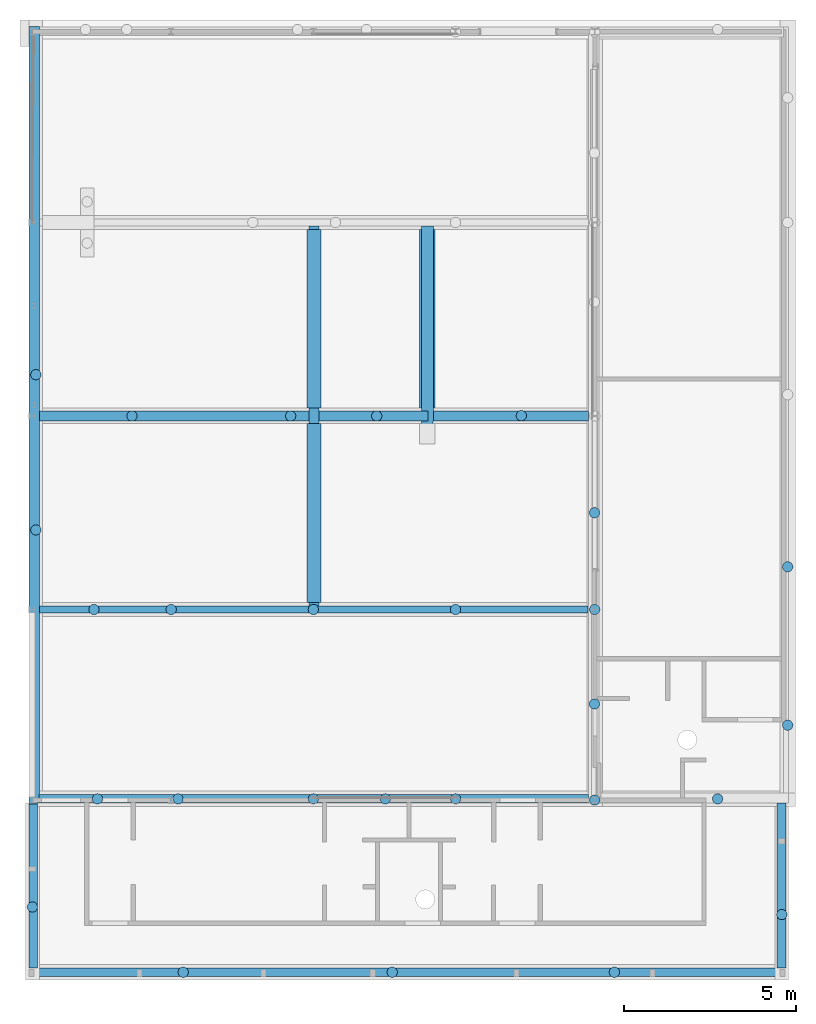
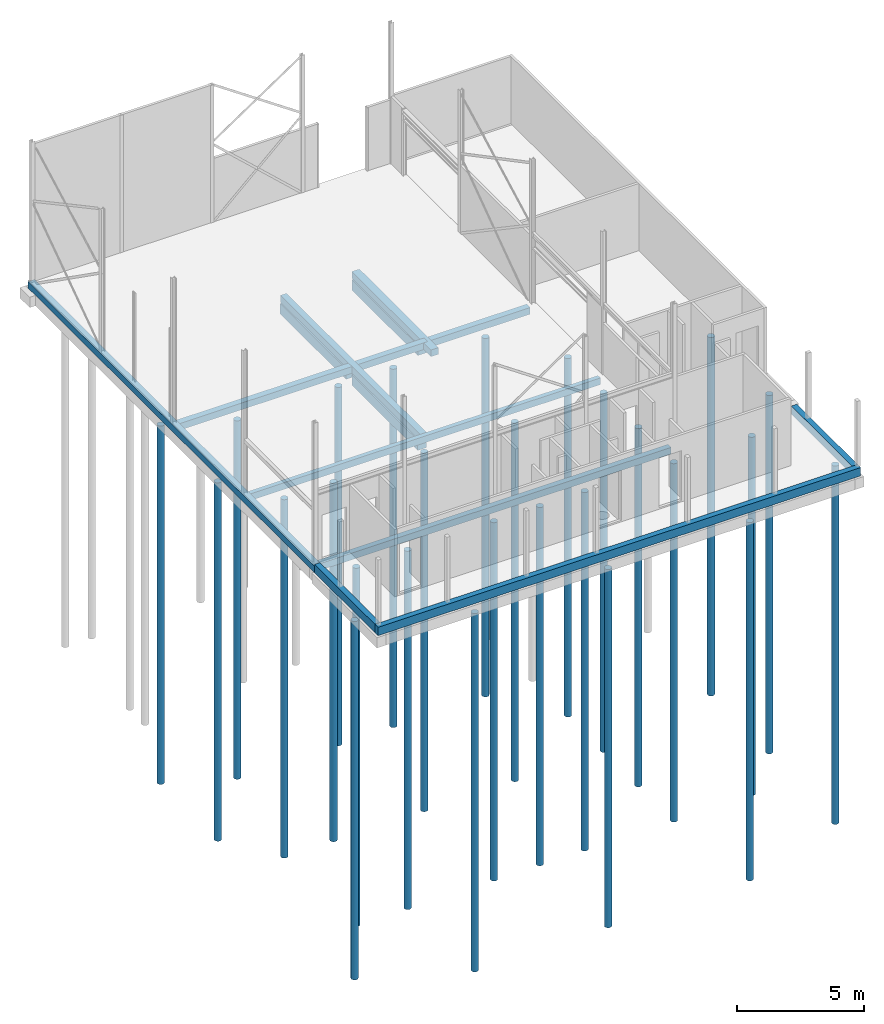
# One storey, part 1 of 17: 27 piles, 14 footings.
"""IFC2X3 building model written with IfcOpenShell, lengths in millimetres."""

import ifcopenshell
import ifcopenshell.guid

model = None  # the IFC model being written
_history = None  # IfcOwnerHistory: only IFC2X3 demands one
_inside = {}  # id of a spatial element -> (the spatial element, [elements in it])
_under = {}  # id of a project, library or spatial element -> (it, [spatial elements below it])
_declared = {}  # id of a project -> (the project, [libraries it declares])
_typed = {}  # id of a type object -> (the type object, [elements of that type])
_made_of = {}  # id of a material, layer set ... -> (it, [elements and type objects made of it])


def new_model(schema):
    """Start an empty IFC model of exactly this schema.

    Asked for "IFC4X3", IfcOpenShell would pick the latest addendum, in which some entities
    have other attributes; the version numbers below select the first issue.
    IFC2X3 requires an IfcOwnerHistory on every rooted entity: one is made here for all.
    """
    global model, _history
    if schema == "IFC4X3":
        model = ifcopenshell.file(schema_version=(4, 3, 0, 0))
    else:
        model = ifcopenshell.file(schema=schema)
    _inside.clear()
    _under.clear()
    _declared.clear()
    _typed.clear()
    _made_of.clear()
    _history = None
    if model.schema == "IFC2X3":
        org = make("IfcOrganization", Name="unknown")
        user = make(
            "IfcPersonAndOrganization",
            ThePerson=make("IfcPerson", FamilyName="unknown"),
            TheOrganization=org,
        )
        app = make(
            "IfcApplication",
            ApplicationDeveloper=org,
            Version="unknown",
            ApplicationFullName="unknown",
            ApplicationIdentifier="unknown",
        )
        _history = make(
            "IfcOwnerHistory",
            OwningUser=user,
            OwningApplication=app,
            ChangeAction="ADDED",
            CreationDate=0,
        )
    return model


def make(cls, **values):
    """One entity of the class cls with the attributes given. An attribute that is None is left unset."""
    return model.create_entity(
        cls, **{name: value for name, value in values.items() if value is not None}
    )


def entity(cls, *values):
    """Any entity or typed value of the class cls, its attributes in the order of the schema. None: left unset."""
    e = model.create_entity(cls)
    for i, value in enumerate(values):
        if value is not None:
            e[i] = value
    return e


def rooted(cls, **values):
    """An entity with a GlobalId (a new one), such as an element, a storey or a relation."""
    return make(cls, GlobalId=ifcopenshell.guid.new(), OwnerHistory=_history, **values)


def si_unit(unit_type, name, prefix=None):
    """IfcSIUnit, for example si_unit("LENGTHUNIT", "METRE", prefix="MILLI")."""
    return make("IfcSIUnit", UnitType=unit_type, Prefix=prefix, Name=name)


def converted_unit(unit_type, name, factor, base, dimensions=None, offset=None):
    """IfcConversionBasedUnit, such as the inch: factor (a typed value) times the base unit."""
    return make(
        "IfcConversionBasedUnit"
        if offset is None
        else "IfcConversionBasedUnitWithOffset",
        ConversionOffset=offset,
        Dimensions=None
        if dimensions is None
        else entity("IfcDimensionalExponents", *dimensions),
        UnitType=unit_type,
        Name=name,
        ConversionFactor=make(
            "IfcMeasureWithUnit", ValueComponent=factor, UnitComponent=base
        ),
    )


def derived_unit(unit_type, elements):
    """IfcDerivedUnit: a product of units, each with its exponent."""
    return make(
        "IfcDerivedUnit",
        Elements=[
            make("IfcDerivedUnitElement", Unit=unit, Exponent=power)
            for unit, power in elements
        ],
        UnitType=unit_type,
    )


def assignment(units):
    """IfcUnitAssignment: the units of a project."""
    return None if units is None else make("IfcUnitAssignment", Units=units)


def point(xyz):
    """IfcCartesianPoint."""
    return None if xyz is None else make("IfcCartesianPoint", Coordinates=xyz)


def direction(xyz):
    """IfcDirection."""
    return None if xyz is None else make("IfcDirection", DirectionRatios=xyz)


def frame(location, z_axis=None, x_axis=None):
    """IfcAxis2Placement3D, a coordinate frame: its origin and axes. An axis left out is left unset."""
    return make(
        "IfcAxis2Placement3D",
        Location=point(location),
        Axis=direction(z_axis),
        RefDirection=direction(x_axis),
    )


def frame_2d(location, x_axis=None):
    """IfcAxis2Placement2D, a coordinate frame in the plane: its origin and x axis."""
    return make(
        "IfcAxis2Placement2D", Location=point(location), RefDirection=direction(x_axis)
    )


def origin():
    """The frame at (0, 0, 0) with its axes left unset."""
    return frame((0.0, 0.0, 0.0))


def origin_2d_with_axis():
    """The frame at (0, 0) in the plane with the x axis (1, 0) written out."""
    return frame_2d((0.0, 0.0), x_axis=(1.0, 0.0))


def place(relative_to, where):
    """IfcLocalPlacement: puts the frame where relative to a parent placement (None: the world)."""
    return make(
        "IfcLocalPlacement", PlacementRelTo=relative_to, RelativePlacement=where
    )


def context(
    kind, dimensions, precision=None, world=None, true_north=None, identifier=None
):
    """IfcGeometricRepresentationContext, for example the 3D "Model" context."""
    return make(
        "IfcGeometricRepresentationContext",
        ContextIdentifier=identifier,
        ContextType=kind,
        CoordinateSpaceDimension=dimensions,
        Precision=precision,
        WorldCoordinateSystem=world,
        TrueNorth=true_north,
    )


def subcontext(parent, identifier, kind, view, scale=None):
    """IfcGeometricRepresentationSubContext, for example "Body" below "Model"."""
    return make(
        "IfcGeometricRepresentationSubContext",
        ContextIdentifier=identifier,
        ContextType=kind,
        ParentContext=parent,
        TargetScale=scale,
        TargetView=view,
    )


def project(units=None, contexts=None):
    """IfcProject with its units and contexts."""
    return rooted(
        "IfcProject",
        Name="project",
        RepresentationContexts=contexts,
        UnitsInContext=assignment(units),
    )


def spatial(cls, under=None, at=None, **own):
    """A site, building, storey or space (cls), placed at a placement, below another one or the project."""
    s = rooted(cls, ObjectPlacement=at, **own)
    if under is not None:
        _under.setdefault(under.id(), (under, []))[1].append(s)
    return s


def polyline(points):
    """IfcPolyline through the points."""
    return make("IfcPolyline", Points=[point(p) for p in points])


def profile(cls, at=None, kind="AREA", **sizes):
    """A parametric profile (cls). Its sizes go by their IFC names, for example OverallWidth=200.0."""
    return make(cls, ProfileType=kind, Position=at, **sizes)


def rectangle(**sizes):
    """IfcRectangleProfileDef."""
    return profile("IfcRectangleProfileDef", **sizes)


def circle(**sizes):
    """IfcCircleProfileDef."""
    return profile("IfcCircleProfileDef", **sizes)


def outline(outer, holes=None, kind="AREA"):
    """IfcArbitraryClosedProfileDef: a profile drawn as a closed curve; with holes, ...WithVoids."""
    if holes is None:
        return make("IfcArbitraryClosedProfileDef", ProfileType=kind, OuterCurve=outer)
    return make(
        "IfcArbitraryProfileDefWithVoids",
        ProfileType=kind,
        OuterCurve=outer,
        InnerCurves=holes,
    )


def extrude(swept, where, along, depth):
    """IfcExtrudedAreaSolid: the profile swept, set in the frame where, extruded along a direction by depth."""
    return make(
        "IfcExtrudedAreaSolid",
        SweptArea=swept,
        Position=where,
        ExtrudedDirection=direction(along),
        Depth=depth,
    )


def shape(context_of_items, identifier, shape_type, items):
    """IfcShapeRepresentation: the items that make up one representation, for example the "Body"."""
    return make(
        "IfcShapeRepresentation",
        ContextOfItems=context_of_items,
        RepresentationIdentifier=identifier,
        RepresentationType=shape_type,
        Items=items,
    )


def source(mapping_origin, context_of_items, identifier, shape_type, items):
    """IfcRepresentationMap: a shape defined once, which mapped items show again and again."""
    return make(
        "IfcRepresentationMap",
        MappingOrigin=mapping_origin,
        MappedRepresentation=shape(context_of_items, identifier, shape_type, items),
    )


def transform(
    local_origin,
    x_axis=None,
    y_axis=None,
    z_axis=None,
    scale=None,
    scale2=None,
    scale3=None,
    uniform=True,
):
    """IfcCartesianTransformationOperator3D, or its non-uniform kind. x_axis, y_axis, z_axis: its Axis1, 2, 3."""
    if uniform:
        return make(
            "IfcCartesianTransformationOperator3D",
            Axis1=direction(x_axis),
            Axis2=direction(y_axis),
            LocalOrigin=point(local_origin),
            Scale=scale,
            Axis3=direction(z_axis),
        )
    return make(
        "IfcCartesianTransformationOperator3DnonUniform",
        Axis1=direction(x_axis),
        Axis2=direction(y_axis),
        LocalOrigin=point(local_origin),
        Scale=scale,
        Axis3=direction(z_axis),
        Scale2=scale2,
        Scale3=scale3,
    )


def mapped(mapping_source, mapping_target):
    """IfcMappedItem: shows the shape of a source again, moved by a transform."""
    return make(
        "IfcMappedItem", MappingSource=mapping_source, MappingTarget=mapping_target
    )


def material(Name=None, Category=None):
    """IfcMaterial."""
    return make("IfcMaterial", Name=Name, Category=Category)


def made_of(thing, what):
    """Note that an element or type object is made of a material, layer set ...; save() writes the relation."""
    if what is not None:
        _made_of.setdefault(what.id(), (what, []))[1].append(thing)
    return thing


def type_object(cls, material=None, **own):
    """A type object (cls), such as IfcWallType, which elements share."""
    return made_of(rooted(cls, **own), material)


def type_shapes(of_type, sources):
    """Give a type object the sources (RepresentationMaps) that its elements show as mapped items."""
    of_type.RepresentationMaps = sources


def element(
    cls,
    number,
    at=None,
    inside=None,
    cuts=None,
    type_object=None,
    material=None,
    context=None,
    identifier="Body",
    shape_type=None,
    held_by="IfcProductDefinitionShape",
    body=None,
    shapes=None,
    **own,
):
    """One element of the class cls, such as IfcWall. Its Tag is "e" and its number.

    at: its placement. inside: the storey or other place that contains it. cuts: it is an
    opening in that element (IfcRelVoidsElement). A single representation is given by context,
    identifier, shape_type and body (its items); several are given by shapes. held_by: the class
    of the entity that holds the representations. save() writes the other relations.
    """
    e = rooted(cls, Tag="e%d" % number, ObjectPlacement=at, **own)
    if body is not None:
        shapes = [shape(context, identifier, shape_type, body)]
    if shapes is not None:
        e.Representation = make(held_by, Representations=shapes)
    if inside is not None:
        _inside.setdefault(inside.id(), (inside, []))[1].append(e)
    if cuts is not None:
        rooted(
            "IfcRelVoidsElement", RelatingBuildingElement=cuts, RelatedOpeningElement=e
        )
    if type_object is not None:
        _typed.setdefault(type_object.id(), (type_object, []))[1].append(e)
    return made_of(e, material)


def aggregate(whole, parts):
    """IfcRelAggregates: a whole, such as a stair, and the parts it consists of."""
    return rooted("IfcRelAggregates", RelatingObject=whole, RelatedObjects=parts)


def save(model, path):
    """Write the relations noted so far, then the file.

    IfcRelAggregates (storeys below a building ...), IfcRelContainedInSpatialStructure (elements
    in a storey), IfcRelDefinesByType, IfcRelAssociatesMaterial and IfcRelDeclares: one each for
    every whole, place, type object, material and project.
    """
    for whole, parts in _under.values():
        aggregate(whole, parts)
    for where, things in _inside.values():
        rooted(
            "IfcRelContainedInSpatialStructure",
            RelatedElements=things,
            RelatingStructure=where,
        )
    for kind, things in _typed.values():
        rooted("IfcRelDefinesByType", RelatedObjects=things, RelatingType=kind)
    for what, things in _made_of.values():
        rooted("IfcRelAssociatesMaterial", RelatedObjects=things, RelatingMaterial=what)
    for by, libraries in _declared.values():
        rooted("IfcRelDeclares", RelatingContext=by, RelatedDefinitions=libraries)
    model.write(path)


model = new_model("IFC2X3")

# Units and contexts
model_context = context("Model", 3, precision=0.01, world=origin(), true_north=direction((6.123031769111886e-17, 1.0)))
plan_context = context("Plan", 3, precision=0.01, world=origin(), true_north=direction((6.123031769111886e-17, 1.0)))
body_context = subcontext(model_context, "Body", "Model", "MODEL_VIEW")
ifc_project = project(units=[si_unit("LENGTHUNIT", "METRE", prefix="MILLI"), si_unit("AREAUNIT", "SQUARE_METRE"), si_unit("VOLUMEUNIT", "CUBIC_METRE"), converted_unit("PLANEANGLEUNIT", "DEGREE", entity("IfcPlaneAngleMeasure", 0.017453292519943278), si_unit("PLANEANGLEUNIT", "RADIAN"), dimensions=[0, 0, 0, 0, 0, 0, 0]), si_unit("MASSUNIT", "GRAM", prefix="KILO"), derived_unit("MASSDENSITYUNIT", [(si_unit("MASSUNIT", "GRAM", prefix="KILO"), 1), (si_unit("LENGTHUNIT", "METRE"), -3)]), derived_unit("IONCONCENTRATIONUNIT", [(si_unit("MASSUNIT", "GRAM", prefix="KILO"), 1), (si_unit("LENGTHUNIT", "METRE"), -3)]), derived_unit("MOMENTOFINERTIAUNIT", [(si_unit("LENGTHUNIT", "METRE"), 4)]), si_unit("TIMEUNIT", "SECOND"), si_unit("FREQUENCYUNIT", "HERTZ"), si_unit("THERMODYNAMICTEMPERATUREUNIT", "DEGREE_CELSIUS"), derived_unit("THERMALTRANSMITTANCEUNIT", [(si_unit("MASSUNIT", "GRAM", prefix="KILO"), 1), (si_unit("THERMODYNAMICTEMPERATUREUNIT", "KELVIN"), -1), (si_unit("TIMEUNIT", "SECOND"), -3)]), derived_unit("THERMALCONDUCTANCEUNIT", [(si_unit("MASSUNIT", "GRAM", prefix="KILO"), 1), (si_unit("THERMODYNAMICTEMPERATUREUNIT", "KELVIN"), -1), (si_unit("TIMEUNIT", "SECOND"), -3), (si_unit("LENGTHUNIT", "METRE"), 1)]), derived_unit("VOLUMETRICFLOWRATEUNIT", [(si_unit("LENGTHUNIT", "METRE", prefix="DECI"), 3), (si_unit("TIMEUNIT", "SECOND"), -1)]), derived_unit("MASSFLOWRATEUNIT", [(si_unit("MASSUNIT", "GRAM", prefix="KILO"), 1), (si_unit("TIMEUNIT", "SECOND"), -1)]), derived_unit("ROTATIONALFREQUENCYUNIT", [(si_unit("TIMEUNIT", "SECOND"), -1)]), si_unit("ELECTRICCURRENTUNIT", "AMPERE"), si_unit("ELECTRICVOLTAGEUNIT", "VOLT"), si_unit("POWERUNIT", "WATT"), si_unit("FORCEUNIT", "NEWTON", prefix="KILO"), si_unit("ILLUMINANCEUNIT", "LUX"), si_unit("LUMINOUSFLUXUNIT", "LUMEN"), si_unit("LUMINOUSINTENSITYUNIT", "CANDELA"), si_unit("ENERGYUNIT", "JOULE"), derived_unit("USERDEFINED", [(si_unit("MASSUNIT", "GRAM", prefix="KILO"), -1), (si_unit("LENGTHUNIT", "METRE"), -2), (si_unit("TIMEUNIT", "SECOND"), 3), (si_unit("LUMINOUSFLUXUNIT", "LUMEN"), 1)]), derived_unit("USERDEFINED", [(si_unit("MASSUNIT", "GRAM", prefix="KILO"), 1), (si_unit("TIMEUNIT", "SECOND"), -3), (si_unit("LENGTHUNIT", "METRE"), 3), (si_unit("ELECTRICCURRENTUNIT", "AMPERE"), -2)]), derived_unit("SOUNDPOWERUNIT", [(si_unit("MASSUNIT", "GRAM", prefix="KILO"), 1), (si_unit("TIMEUNIT", "SECOND"), -3), (si_unit("LENGTHUNIT", "METRE"), 2)]), derived_unit("SOUNDPRESSUREUNIT", [(si_unit("MASSUNIT", "GRAM", prefix="KILO"), 1), (si_unit("LENGTHUNIT", "METRE"), -1), (si_unit("TIMEUNIT", "SECOND"), -2)]), derived_unit("LINEARVELOCITYUNIT", [(si_unit("LENGTHUNIT", "METRE"), 1), (si_unit("TIMEUNIT", "SECOND"), -1)]), si_unit("PRESSUREUNIT", "PASCAL"), derived_unit("USERDEFINED", [(si_unit("MASSUNIT", "GRAM", prefix="KILO"), 1), (si_unit("LENGTHUNIT", "METRE"), -2), (si_unit("TIMEUNIT", "SECOND"), -2)]), derived_unit("LINEARFORCEUNIT", [(si_unit("MASSUNIT", "GRAM", prefix="KILO"), 1), (si_unit("TIMEUNIT", "SECOND"), -2)]), derived_unit("PLANARFORCEUNIT", [(si_unit("MASSUNIT", "GRAM", prefix="KILO"), 1), (si_unit("LENGTHUNIT", "METRE"), -1), (si_unit("TIMEUNIT", "SECOND"), -2)]), derived_unit("SPECIFICHEATCAPACITYUNIT", [(si_unit("THERMODYNAMICTEMPERATUREUNIT", "KELVIN"), -1), (si_unit("LENGTHUNIT", "METRE"), 2), (si_unit("TIMEUNIT", "SECOND"), -2)]), derived_unit("HEATFLUXDENSITYUNIT", [(si_unit("MASSUNIT", "GRAM", prefix="KILO"), 1), (si_unit("TIMEUNIT", "SECOND"), -3)]), derived_unit("HEATINGVALUEUNIT", [(si_unit("LENGTHUNIT", "METRE"), 2), (si_unit("TIMEUNIT", "SECOND"), -2)]), derived_unit("VAPORPERMEABILITYUNIT", [(si_unit("LENGTHUNIT", "METRE"), -1), (si_unit("TIMEUNIT", "SECOND"), 1)]), derived_unit("DYNAMICVISCOSITYUNIT", [(si_unit("MASSUNIT", "GRAM", prefix="KILO"), 1), (si_unit("TIMEUNIT", "SECOND"), -1), (si_unit("LENGTHUNIT", "METRE"), -1)]), derived_unit("THERMALEXPANSIONCOEFFICIENTUNIT", [(si_unit("THERMODYNAMICTEMPERATUREUNIT", "KELVIN"), -1)]), derived_unit("MODULUSOFELASTICITYUNIT", [(si_unit("MASSUNIT", "GRAM", prefix="KILO"), 1), (si_unit("LENGTHUNIT", "METRE"), -1), (si_unit("TIMEUNIT", "SECOND"), -2)]), derived_unit("ISOTHERMALMOISTURECAPACITYUNIT", [(si_unit("MASSUNIT", "GRAM", prefix="KILO"), -1), (si_unit("LENGTHUNIT", "METRE"), 3)]), derived_unit("MOISTUREDIFFUSIVITYUNIT", [(si_unit("TIMEUNIT", "SECOND"), -1), (si_unit("LENGTHUNIT", "METRE"), 2)]), derived_unit("MASSPERLENGTHUNIT", [(si_unit("MASSUNIT", "GRAM", prefix="KILO"), 1), (si_unit("LENGTHUNIT", "METRE"), -1)]), derived_unit("THERMALRESISTANCEUNIT", [(si_unit("MASSUNIT", "GRAM", prefix="KILO"), -1), (si_unit("TIMEUNIT", "SECOND"), 3), (si_unit("THERMODYNAMICTEMPERATUREUNIT", "KELVIN"), 1)]), derived_unit("ACCELERATIONUNIT", [(si_unit("LENGTHUNIT", "METRE"), 1), (si_unit("TIMEUNIT", "SECOND"), -2)]), derived_unit("ANGULARVELOCITYUNIT", [(si_unit("TIMEUNIT", "SECOND"), -1), (si_unit("PLANEANGLEUNIT", "RADIAN"), 1)]), derived_unit("LINEARSTIFFNESSUNIT", [(si_unit("MASSUNIT", "GRAM", prefix="KILO"), 1), (si_unit("TIMEUNIT", "SECOND"), -2)]), derived_unit("WARPINGCONSTANTUNIT", [(si_unit("LENGTHUNIT", "METRE"), 6)]), derived_unit("LINEARMOMENTUNIT", [(si_unit("MASSUNIT", "GRAM", prefix="KILO"), 1), (si_unit("LENGTHUNIT", "METRE"), 1), (si_unit("TIMEUNIT", "SECOND"), -2)]), derived_unit("TORQUEUNIT", [(si_unit("MASSUNIT", "GRAM", prefix="KILO"), 1), (si_unit("LENGTHUNIT", "METRE"), 2), (si_unit("TIMEUNIT", "SECOND"), -2)])], contexts=[model_context, plan_context])

# Site, building, storey
site_placement = place(None, origin())
site = spatial("IfcSite", under=ifc_project, at=site_placement, Name="Default", CompositionType="ELEMENT")
building_placement = place(site_placement, origin())
building = spatial("IfcBuilding", under=site, at=building_placement, CompositionType="ELEMENT")
storey_placement = place(building_placement, origin())
storey = spatial("IfcBuildingStorey", under=building, at=storey_placement, Name="00 begane grond", CompositionType="ELEMENT", Elevation=0.0)

# Piles
ifc_material = material(Name="ihwg beton")
shared_shape_1 = source(origin(), body_context, "Body", "SweptSolid", [
    extrude(circle(Radius=150.0, at=origin_2d_with_axis()), frame((37056.192937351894, 27492.670340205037, -18200.0)), (0.0, 0.0, 1.0), 17249.99999999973),
])
pile_1_placement = place(storey_placement, origin())
element("IfcPile", 1, at=pile_1_placement, inside=storey, material=ifc_material, Name="17_SFO_TLB_mortelschroefpaal_dw:Ø300_ihwg fund_type 01", ObjectType="17_SFO_TLB_mortelschroefpaal_dw:Ø300_ihwg fund_type 01", PredefinedType="NOTDEFINED", context=body_context, shape_type="MappedRepresentation", body=[
    mapped(shared_shape_1, transform((0.0, 0.0, 0.0), scale=1.0)),
])
shared_shape_2 = source(origin(), body_context, "Body", "SweptSolid", [
    extrude(circle(Radius=150.0, at=origin_2d_with_axis()), frame((41666.19293735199, 27492.670340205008, -18200.0)), (0.0, 0.0, 1.0), 17249.99999999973),
])
pile_2_placement = place(storey_placement, origin())
element("IfcPile", 2, at=pile_2_placement, inside=storey, material=ifc_material, Name="17_SFO_TLB_mortelschroefpaal_dw:Ø300_ihwg fund_type 01", ObjectType="17_SFO_TLB_mortelschroefpaal_dw:Ø300_ihwg fund_type 01", PredefinedType="NOTDEFINED", context=body_context, shape_type="MappedRepresentation", body=[
    mapped(shared_shape_2, transform((0.0, 0.0, 0.0), scale=1.0)),
])
shared_shape_3 = source(origin(), body_context, "Body", "SweptSolid", [
    extrude(circle(Radius=150.0, at=origin_2d_with_axis()), frame((48366.19293735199, 27502.670340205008, -18200.0)), (0.0, 0.0, 1.0), 17249.99999999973),
])
pile_3_placement = place(storey_placement, origin())
element("IfcPile", 3, at=pile_3_placement, inside=storey, material=ifc_material, Name="17_SFO_TLB_mortelschroefpaal_dw:Ø300_ihwg fund_type 01", ObjectType="17_SFO_TLB_mortelschroefpaal_dw:Ø300_ihwg fund_type 01", PredefinedType="NOTDEFINED", context=body_context, shape_type="MappedRepresentation", body=[
    mapped(shared_shape_3, transform((0.0, 0.0, 0.0), scale=1.0)),
])
shared_shape_4 = source(origin(), body_context, "Body", "SweptSolid", [
    extrude(circle(Radius=150.0, at=origin_2d_with_axis()), frame((38196.19293735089, 21872.670340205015, -18200.0)), (0.0, 0.0, 1.0), 17249.99999999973),
])
pile_4_placement = place(storey_placement, origin())
element("IfcPile", 4, at=pile_4_placement, inside=storey, material=ifc_material, Name="17_SFO_TLB_mortelschroefpaal_dw:Ø300_ihwg fund_type 01", ObjectType="17_SFO_TLB_mortelschroefpaal_dw:Ø300_ihwg fund_type 01", PredefinedType="NOTDEFINED", context=body_context, shape_type="MappedRepresentation", body=[
    mapped(shared_shape_4, transform((0.0, 0.0, 0.0), scale=1.0)),
])
shared_shape_5 = source(origin(), body_context, "Body", "SweptSolid", [
    extrude(circle(Radius=150.0, at=origin_2d_with_axis()), frame((42326.19293735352, 21872.670340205, -18200.0)), (0.0, 0.0, 1.0), 17249.99999999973),
])
pile_5_placement = place(storey_placement, origin())
element("IfcPile", 5, at=pile_5_placement, inside=storey, material=ifc_material, Name="17_SFO_TLB_mortelschroefpaal_dw:Ø300_ihwg fund_type 01", ObjectType="17_SFO_TLB_mortelschroefpaal_dw:Ø300_ihwg fund_type 01", PredefinedType="NOTDEFINED", context=body_context, shape_type="MappedRepresentation", body=[
    mapped(shared_shape_5, transform((0.0, 0.0, 0.0), scale=1.0)),
])
shared_shape_6 = source(origin(), body_context, "Body", "SweptSolid", [
    extrude(circle(Radius=150.0, at=origin_2d_with_axis()), frame((46456.1929373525, 21872.67034020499, -18200.0)), (0.0, 0.0, 1.0), 17249.99999999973),
])
pile_6_placement = place(storey_placement, origin())
element("IfcPile", 6, at=pile_6_placement, inside=storey, material=ifc_material, Name="17_SFO_TLB_mortelschroefpaal_dw:Ø300_ihwg fund_type 01", ObjectType="17_SFO_TLB_mortelschroefpaal_dw:Ø300_ihwg fund_type 01", PredefinedType="NOTDEFINED", context=body_context, shape_type="MappedRepresentation", body=[
    mapped(shared_shape_6, transform((0.0, 0.0, 0.0), scale=1.0)),
])
shared_shape_7 = source(origin(), body_context, "Body", "SweptSolid", [
    extrude(circle(Radius=150.0, at=origin_2d_with_axis()), frame((50491.192937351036, 24682.670340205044, -18200.0)), (0.0, 0.0, 1.0), 17249.99999999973),
])
pile_7_placement = place(storey_placement, origin())
element("IfcPile", 7, at=pile_7_placement, inside=storey, material=ifc_material, Name="17_SFO_TLB_mortelschroefpaal_dw:Ø300_ihwg fund_type 01", ObjectType="17_SFO_TLB_mortelschroefpaal_dw:Ø300_ihwg fund_type 01", PredefinedType="NOTDEFINED", context=body_context, shape_type="MappedRepresentation", body=[
    mapped(shared_shape_7, transform((0.0, 0.0, 0.0), scale=1.0)),
])
shared_shape_8 = source(origin(), body_context, "Body", "SweptSolid", [
    extrude(circle(Radius=150.0, at=origin_2d_with_axis()), frame((35956.19293735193, 21872.670340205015, -18200.0)), (0.0, 0.0, 1.0), 17249.99999999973),
])
pile_8_placement = place(storey_placement, origin())
element("IfcPile", 8, at=pile_8_placement, inside=storey, material=ifc_material, Name="17_SFO_TLB_mortelschroefpaal_dw:Ø300_ihwg fund_type 01", ObjectType="17_SFO_TLB_mortelschroefpaal_dw:Ø300_ihwg fund_type 01", PredefinedType="NOTDEFINED", context=body_context, shape_type="MappedRepresentation", body=[
    mapped(shared_shape_8, transform((0.0, 0.0, 0.0), scale=1.0)),
])
shared_shape_9 = source(origin(), body_context, "Body", "SweptSolid", [
    extrude(circle(Radius=150.0, at=origin_2d_with_axis()), frame((50496.192937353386, 21872.670340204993, -18200.0)), (0.0, 0.0, 1.0), 17249.99999999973),
])
pile_9_placement = place(storey_placement, origin())
element("IfcPile", 9, at=pile_9_placement, inside=storey, material=ifc_material, Name="17_SFO_TLB_mortelschroefpaal_dw:Ø300_ihwg fund_type 01", ObjectType="17_SFO_TLB_mortelschroefpaal_dw:Ø300_ihwg fund_type 01", PredefinedType="NOTDEFINED", context=body_context, shape_type="MappedRepresentation", body=[
    mapped(shared_shape_9, transform((0.0, 0.0, 0.0), scale=1.0)),
])
shared_shape_10 = source(origin(), body_context, "Body", "SweptSolid", [
    extrude(circle(Radius=150.0, at=origin_2d_with_axis()), frame((36056.19293735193, 16372.670340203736, -18200.0)), (0.0, 0.0, 1.0), 17249.99999999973),
])
pile_10_placement = place(storey_placement, origin())
element("IfcPile", 10, at=pile_10_placement, inside=storey, material=ifc_material, Name="17_SFO_TLB_mortelschroefpaal_dw:Ø300_ihwg fund_type 01", ObjectType="17_SFO_TLB_mortelschroefpaal_dw:Ø300_ihwg fund_type 01", PredefinedType="NOTDEFINED", context=body_context, shape_type="MappedRepresentation", body=[
    mapped(shared_shape_10, transform((0.0, 0.0, 0.0), scale=1.0)),
])
shared_shape_11 = source(origin(), body_context, "Body", "SweptSolid", [
    extrude(circle(Radius=150.0, at=origin_2d_with_axis()), frame((38396.19293735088, 16372.670340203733, -18200.0)), (0.0, 0.0, 1.0), 17249.99999999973),
])
pile_11_placement = place(storey_placement, origin())
element("IfcPile", 11, at=pile_11_placement, inside=storey, material=ifc_material, Name="17_SFO_TLB_mortelschroefpaal_dw:Ø300_ihwg fund_type 01", ObjectType="17_SFO_TLB_mortelschroefpaal_dw:Ø300_ihwg fund_type 01", PredefinedType="NOTDEFINED", context=body_context, shape_type="MappedRepresentation", body=[
    mapped(shared_shape_11, transform((0.0, 0.0, 0.0), scale=1.0)),
])
shared_shape_12 = source(origin(), body_context, "Body", "SweptSolid", [
    extrude(circle(Radius=150.0, at=origin_2d_with_axis()), frame((42326.19293735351, 16372.670340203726, -18200.0)), (0.0, 0.0, 1.0), 17249.99999999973),
])
pile_12_placement = place(storey_placement, origin())
element("IfcPile", 12, at=pile_12_placement, inside=storey, material=ifc_material, Name="17_SFO_TLB_mortelschroefpaal_dw:Ø300_ihwg fund_type 01", ObjectType="17_SFO_TLB_mortelschroefpaal_dw:Ø300_ihwg fund_type 01", PredefinedType="NOTDEFINED", context=body_context, shape_type="MappedRepresentation", body=[
    mapped(shared_shape_12, transform((0.0, 0.0, 0.0), scale=1.0)),
])
shared_shape_13 = source(origin(), body_context, "Body", "SweptSolid", [
    extrude(circle(Radius=150.0, at=origin_2d_with_axis()), frame((46456.19293735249, 16372.67034020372, -18200.0)), (0.0, 0.0, 1.0), 17249.99999999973),
])
pile_13_placement = place(storey_placement, origin())
element("IfcPile", 13, at=pile_13_placement, inside=storey, material=ifc_material, Name="17_SFO_TLB_mortelschroefpaal_dw:Ø300_ihwg fund_type 01", ObjectType="17_SFO_TLB_mortelschroefpaal_dw:Ø300_ihwg fund_type 01", PredefinedType="NOTDEFINED", context=body_context, shape_type="MappedRepresentation", body=[
    mapped(shared_shape_13, transform((0.0, 0.0, 0.0), scale=1.0)),
])
shared_shape_14 = source(origin(), body_context, "Body", "SweptSolid", [
    extrude(circle(Radius=150.0, at=origin_2d_with_axis()), frame((54066.19293735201, 16372.670340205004, -18200.0)), (0.0, 0.0, 1.0), 17249.99999999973),
])
pile_14_placement = place(storey_placement, origin())
element("IfcPile", 14, at=pile_14_placement, inside=storey, material=ifc_material, Name="17_SFO_TLB_mortelschroefpaal_dw:Ø300_ihwg fund_type 01", ObjectType="17_SFO_TLB_mortelschroefpaal_dw:Ø300_ihwg fund_type 01", PredefinedType="NOTDEFINED", context=body_context, shape_type="MappedRepresentation", body=[
    mapped(shared_shape_14, transform((0.0, 0.0, 0.0), scale=1.0)),
])
shared_shape_15 = source(origin(), body_context, "Body", "SweptSolid", [
    extrude(circle(Radius=150.0, at=origin_2d_with_axis()), frame((56101.19293735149, 18512.670340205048, -18200.0)), (0.0, 0.0, 1.0), 17249.99999999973),
])
pile_15_placement = place(storey_placement, origin())
element("IfcPile", 15, at=pile_15_placement, inside=storey, material=ifc_material, Name="17_SFO_TLB_mortelschroefpaal_dw:Ø300_ihwg fund_type 01", ObjectType="17_SFO_TLB_mortelschroefpaal_dw:Ø300_ihwg fund_type 01", PredefinedType="NOTDEFINED", context=body_context, shape_type="MappedRepresentation", body=[
    mapped(shared_shape_15, transform((0.0, 0.0, 0.0), scale=1.0)),
])
shared_shape_16 = source(origin(), body_context, "Body", "SweptSolid", [
    extrude(circle(Radius=150.0, at=origin_2d_with_axis()), frame((56101.192937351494, 23112.67034020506, -18200.0)), (0.0, 0.0, 1.0), 17249.99999999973),
])
pile_16_placement = place(storey_placement, origin())
element("IfcPile", 16, at=pile_16_placement, inside=storey, material=ifc_material, Name="17_SFO_TLB_mortelschroefpaal_dw:Ø300_ihwg fund_type 01", ObjectType="17_SFO_TLB_mortelschroefpaal_dw:Ø300_ihwg fund_type 01", PredefinedType="NOTDEFINED", context=body_context, shape_type="MappedRepresentation", body=[
    mapped(shared_shape_16, transform((0.0, 0.0, 0.0), scale=1.0)),
])
shared_shape_17 = source(origin(), body_context, "Body", "SweptSolid", [
    extrude(circle(Radius=150.0, at=origin_2d_with_axis()), frame((38546.192937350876, 11337.67034020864, -18200.0)), (0.0, 0.0, 1.0), 17249.99999999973),
])
pile_17_placement = place(storey_placement, origin())
element("IfcPile", 17, at=pile_17_placement, inside=storey, material=ifc_material, Name="17_SFO_TLB_mortelschroefpaal_dw:Ø300_ihwg fund_type 01", ObjectType="17_SFO_TLB_mortelschroefpaal_dw:Ø300_ihwg fund_type 01", PredefinedType="NOTDEFINED", context=body_context, shape_type="MappedRepresentation", body=[
    mapped(shared_shape_17, transform((0.0, 0.0, 0.0), scale=1.0)),
])
shared_shape_18 = source(origin(), body_context, "Body", "SweptSolid", [
    extrude(circle(Radius=150.0, at=origin_2d_with_axis()), frame((44616.19293735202, 11337.67034020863, -18200.0)), (0.0, 0.0, 1.0), 17249.99999999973),
])
pile_18_placement = place(storey_placement, origin())
element("IfcPile", 18, at=pile_18_placement, inside=storey, material=ifc_material, Name="17_SFO_TLB_mortelschroefpaal_dw:Ø300_ihwg fund_type 01", ObjectType="17_SFO_TLB_mortelschroefpaal_dw:Ø300_ihwg fund_type 01", PredefinedType="NOTDEFINED", context=body_context, shape_type="MappedRepresentation", body=[
    mapped(shared_shape_18, transform((0.0, 0.0, 0.0), scale=1.0)),
])
shared_shape_19 = source(origin(), body_context, "Body", "SweptSolid", [
    extrude(circle(Radius=150.0, at=origin_2d_with_axis()), frame((51066.192937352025, 11337.670340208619, -18200.0)), (0.0, 0.0, 1.0), 17249.99999999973),
])
pile_19_placement = place(storey_placement, origin())
element("IfcPile", 19, at=pile_19_placement, inside=storey, material=ifc_material, Name="17_SFO_TLB_mortelschroefpaal_dw:Ø300_ihwg fund_type 01", ObjectType="17_SFO_TLB_mortelschroefpaal_dw:Ø300_ihwg fund_type 01", PredefinedType="NOTDEFINED", context=body_context, shape_type="MappedRepresentation", body=[
    mapped(shared_shape_19, transform((0.0, 0.0, 0.0), scale=1.0)),
])
shared_shape_20 = source(origin(), body_context, "Body", "SweptSolid", [
    extrude(circle(Radius=150.0, at=origin_2d_with_axis()), frame((55931.19293735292, 13012.670340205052, -18200.0)), (0.0, 0.0, 1.0), 17249.99999999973),
])
pile_20_placement = place(storey_placement, origin())
element("IfcPile", 20, at=pile_20_placement, inside=storey, material=ifc_material, Name="17_SFO_TLB_mortelschroefpaal_dw:Ø300_ihwg fund_type 01", ObjectType="17_SFO_TLB_mortelschroefpaal_dw:Ø300_ihwg fund_type 01", PredefinedType="NOTDEFINED", context=body_context, shape_type="MappedRepresentation", body=[
    mapped(shared_shape_20, transform((0.0, 0.0, 0.0), scale=1.0)),
])

# Footings
type_product_1 = type_object("IfcTypeProduct", Name="16_SF_LIB_funderingsbalk_dw:250x400 (ihwg)", material=ifc_material)
shared_shape_21 = source(origin(), body_context, "Body", "SweptSolid", [
    extrude(rectangle(XDim=21980.0, YDim=250.00000000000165, at=frame_2d((-2147.9999999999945, -24.999999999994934), x_axis=(1.0, 0.0))), frame((47204.19293735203, 11362.670340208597, -470.0)), (0.0, 0.0, 1.0), 399.99999999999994),
])
type_shapes(type_product_1, [shared_shape_21])
footing_1_placement = place(storey_placement, origin())
element("IfcFooting", 21, at=footing_1_placement, inside=storey, type_object=type_product_1, material=ifc_material, Name="16_SF_LIB_funderingsbalk_dw:250x400 (ihwg)", ObjectType="16_SF_LIB_funderingsbalk_dw:250x400 (ihwg)", context=body_context, shape_type="MappedRepresentation", body=[
    mapped(shared_shape_21, transform((0.0, 0.0, 0.0), scale=1.0)),
])
type_product_2 = type_object("IfcTypeProduct", Name="16_SF_LIB_funderingsbalk_dw:250x400 (ihwg)", material=ifc_material)
shared_shape_22 = source(origin(), body_context, "Body", "SweptSolid", [
    extrude(rectangle(XDim=4784.9999999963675, YDim=250.0000000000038, at=frame_2d((-1.1368683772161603e-12, -4.334310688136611e-12), x_axis=(1.0, 0.0))), frame((55921.19293735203, 13855.170340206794, -470.0), z_axis=(0.0, 0.0, 1.0), x_axis=(0.0, -1.0, 0.0)), (0.0, 0.0, 1.0), 399.99999999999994),
])
type_shapes(type_product_2, [shared_shape_22])
footing_2_placement = place(storey_placement, origin())
element("IfcFooting", 22, at=footing_2_placement, inside=storey, type_object=type_product_2, material=ifc_material, Name="16_SF_LIB_funderingsbalk_dw:250x400 (ihwg)", ObjectType="16_SF_LIB_funderingsbalk_dw:250x400 (ihwg)", context=body_context, shape_type="MappedRepresentation", body=[
    mapped(shared_shape_22, transform((0.0, 0.0, 0.0), scale=1.0)),
])
type_product_3 = type_object("IfcTypeProduct", Name="16_SF_LIB_funderingsbalk_dw:250x400 (ihwg)", material=ifc_material)
shared_shape_23 = source(origin(), body_context, "Body", "SweptSolid", [
    extrude(rectangle(XDim=4754.499832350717, YDim=249.9999999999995, at=frame_2d((461.5500167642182, 25.000000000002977), x_axis=(1.0, 0.0))), frame((34166.19293735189, 14301.47027314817, -470.0), z_axis=(0.0, 0.0, 1.0), x_axis=(0.0, -1.0, 0.0)), (0.0, 0.0, 1.0), 399.99999999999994),
])
type_shapes(type_product_3, [shared_shape_23])
footing_3_placement = place(storey_placement, origin())
element("IfcFooting", 23, at=footing_3_placement, inside=storey, type_object=type_product_3, material=ifc_material, Name="16_SF_LIB_funderingsbalk_dw:250x400 (ihwg)", ObjectType="16_SF_LIB_funderingsbalk_dw:250x400 (ihwg)", context=body_context, shape_type="MappedRepresentation", body=[
    mapped(shared_shape_23, transform((0.0, 0.0, 0.0), scale=1.0)),
])
type_product_4 = type_object("IfcTypeProduct", Name="16_SF_LIB_funderingsbalk_dw:250x320 (ihwg)", material=ifc_material)
shared_shape_24 = source(origin(), body_context, "Body", "SweptSolid", [
    extrude(rectangle(XDim=15956.999999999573, YDim=249.9999999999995, at=frame_2d((1594.2999999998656, -25.000000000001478), x_axis=(1.0, 0.0))), frame((40743.39293735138, 16397.670340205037, -470.0)), (0.0, 0.0, 1.0), 320.0),
])
type_shapes(type_product_4, [shared_shape_24])
footing_4_placement = place(storey_placement, origin())
element("IfcFooting", 24, at=footing_4_placement, inside=storey, type_object=type_product_4, material=ifc_material, Name="16_SF_LIB_funderingsbalk_dw:250x320 (ihwg)", ObjectType="16_SF_LIB_funderingsbalk_dw:250x320 (ihwg)", context=body_context, shape_type="MappedRepresentation", body=[
    mapped(shared_shape_24, transform((0.0, 0.0, 0.0), scale=1.0)),
])
type_product_5 = type_object("IfcTypeProduct", Name="16_SF_LIB_funderingsbalk_dw:300x320 (ihwg)", material=ifc_material)
shared_shape_25 = source(origin(), body_context, "Body", "SweptSolid", [
    extrude(outline(polyline([(-13243.735165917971, -240.35294117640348), (8955.764666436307, -240.35294117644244), (9336.264834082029, -240.35294117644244), (9336.264834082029, 9.647058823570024), (9305.764666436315, 9.647058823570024), (9305.764666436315, 52.64705882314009), (9055.764666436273, 52.64705882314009), (9055.764666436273, 59.64705882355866), (3780.7646664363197, 59.64705882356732), (3580.7646664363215, 59.64705882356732), (-1799.2353335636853, 59.64705882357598), (-2079.2353335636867, 59.647058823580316), (-7459.235333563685, 59.64705882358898), (-7659.235333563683, 59.64705882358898), (-12989.235333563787, 59.64705882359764), (-13239.235333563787, 59.64705882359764), (-13243.735165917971, 59.64705882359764), (-13243.735165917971, -240.35294117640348)])), frame((34306.54587852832, 25553.43500664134, -470.0), z_axis=(0.0, 0.0, 1.0), x_axis=(0.0, -1.0, 0.0)), (0.0, 0.0, 1.0), 320.0),
])
type_shapes(type_product_5, [shared_shape_25])
footing_5_placement = place(storey_placement, origin())
element("IfcFooting", 25, at=footing_5_placement, inside=storey, type_object=type_product_5, material=ifc_material, Name="16_SF_LIB_funderingsbalk_dw:300x320 (ihwg)", ObjectType="16_SF_LIB_funderingsbalk_dw:300x320 (ihwg)", context=body_context, shape_type="MappedRepresentation", body=[
    mapped(shared_shape_25, transform((0.0, 0.0, 0.0), scale=1.0)),
])
type_product_6 = type_object("IfcTypeProduct", Name="16_SF_LIB_funderingsbalk_dw:450x500 (ihwg)", material=ifc_material)
shared_shape_26 = source(origin(), body_context, "Body", "SweptSolid", [
    extrude(rectangle(XDim=5195.00000000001, YDim=450.00000000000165, at=frame_2d((-2.2737367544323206e-12, 0.0), x_axis=(1.0, 0.0))), frame((45636.65960402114, 30315.170340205, -970.0), z_axis=(0.0, 0.0, 1.0), x_axis=(0.0, -1.0, 0.0)), (0.0, 0.0, 1.0), 500.00000000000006),
])
type_shapes(type_product_6, [shared_shape_26])
footing_6_placement = place(storey_placement, origin())
element("IfcFooting", 26, at=footing_6_placement, inside=storey, type_object=type_product_6, material=ifc_material, Name="16_SF_LIB_funderingsbalk_dw:450x500 (ihwg)", ObjectType="16_SF_LIB_funderingsbalk_dw:450x500 (ihwg)", context=body_context, shape_type="MappedRepresentation", body=[
    mapped(shared_shape_26, transform((0.0, 0.0, 0.0), scale=1.0)),
])
type_product_7 = type_object("IfcTypeProduct", Name="16_SF_LIB_funderingsbalk_dw:400x500 (ihwg)", material=ifc_material)
shared_shape_27 = source(origin(), body_context, "Body", "SweptSolid", [
    extrude(rectangle(XDim=5195.000000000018, YDim=400.0000000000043, at=origin_2d_with_axis()), frame((42345.148601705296, 30315.17034020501, -970.0), z_axis=(0.0, 0.0, 1.0), x_axis=(0.0, -1.0, 0.0)), (0.0, 0.0, 1.0), 500.00000000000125),
])
type_shapes(type_product_7, [shared_shape_27])
footing_7_placement = place(storey_placement, origin())
element("IfcFooting", 27, at=footing_7_placement, inside=storey, type_object=type_product_7, material=ifc_material, Name="16_SF_LIB_funderingsbalk_dw:400x500 (ihwg)", ObjectType="16_SF_LIB_funderingsbalk_dw:400x500 (ihwg)", context=body_context, shape_type="MappedRepresentation", body=[
    mapped(shared_shape_27, transform((0.0, 0.0, 0.0), scale=1.0)),
])
type_product_8 = type_object("IfcTypeProduct", Name="16_SF_LIB_funderingsbalk_dw:400x500 (ihwg)", material=ifc_material)
shared_shape_28 = source(origin(), body_context, "Body", "SweptSolid", [
    extrude(rectangle(XDim=5195.000000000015, YDim=399.9999999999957, at=origin_2d_with_axis()), frame((42345.14860170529, 24670.17034020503, -970.0), z_axis=(0.0, 0.0, 1.0), x_axis=(0.0, 1.0, 0.0)), (0.0, 0.0, 1.0), 500.00000000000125),
])
type_shapes(type_product_8, [shared_shape_28])
footing_8_placement = place(storey_placement, origin())
element("IfcFooting", 28, at=footing_8_placement, inside=storey, type_object=type_product_8, material=ifc_material, Name="16_SF_LIB_funderingsbalk_dw:400x500 (ihwg)", ObjectType="16_SF_LIB_funderingsbalk_dw:400x500 (ihwg)", context=body_context, shape_type="MappedRepresentation", body=[
    mapped(shared_shape_28, transform((0.0, 0.0, 0.0), scale=1.0)),
])
type_product_9 = type_object("IfcTypeProduct", Name="16_SF_LIB_funderingsbalk_dw:280x350 (ihwg)", material=ifc_material)
shared_shape_29 = source(origin(), body_context, "Body", "SweptSolid", [
    extrude(rectangle(XDim=11040.000000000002, YDim=279.999999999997, at=frame_2d((-2.408341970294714e-09, 0.0), x_axis=(1.0, 0.0))), frame((42345.14860170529, 27492.670340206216, -470.0), z_axis=(0.0, 0.0, 1.0), x_axis=(0.0, -1.0, 0.0)), (0.0, 0.0, 1.0), 320.00000000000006),
])
type_shapes(type_product_9, [shared_shape_29])
footing_9_placement = place(storey_placement, origin())
element("IfcFooting", 29, at=footing_9_placement, inside=storey, type_object=type_product_9, material=ifc_material, Name="16_SF_LIB_funderingsbalk_dw:280x350 (ihwg)", ObjectType="16_SF_LIB_funderingsbalk_dw:280x350 (ihwg)", context=body_context, shape_type="MappedRepresentation", body=[
    mapped(shared_shape_29, transform((0.0, 0.0, 0.0), scale=1.0)),
])
type_product_10 = type_object("IfcTypeProduct", Name="16_SF_LIB_funderingsbalk_dw:280x350 (ihwg)", material=ifc_material)
shared_shape_30 = source(origin(), body_context, "Body", "SweptSolid", [
    extrude(rectangle(XDim=7838.955664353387, YDim=279.9999999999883, at=origin_2d_with_axis()), frame((38285.670769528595, 27492.670340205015, -470.0)), (0.0, 0.0, 1.0), 320.0),
])
type_shapes(type_product_10, [shared_shape_30])
footing_10_placement = place(storey_placement, origin())
element("IfcFooting", 30, at=footing_10_placement, inside=storey, type_object=type_product_10, material=ifc_material, Name="16_SF_LIB_funderingsbalk_dw:280x350 (ihwg)", ObjectType="16_SF_LIB_funderingsbalk_dw:280x350 (ihwg)", context=body_context, shape_type="MappedRepresentation", body=[
    mapped(shared_shape_30, transform((0.0, 0.0, 0.0), scale=1.0)),
])
type_product_11 = type_object("IfcTypeProduct", Name="16_SF_LIB_funderingsbalk_dw:280x350 (ihwg)", material=ifc_material)
shared_shape_31 = source(origin(), body_context, "Body", "SweptSolid", [
    extrude(rectangle(XDim=3164.999999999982, YDim=280.0000000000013, at=frame_2d((596.7190009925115, -20.00000000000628), x_axis=(1.0, 0.0))), frame((44664.36760269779, 27472.67034020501, -470.0), z_axis=(0.0, 0.0, 1.0), x_axis=(-1.0, 0.0, 0.0)), (0.0, 0.0, 1.0), 320.0),
])
type_shapes(type_product_11, [shared_shape_31])
footing_11_placement = place(storey_placement, origin())
element("IfcFooting", 31, at=footing_11_placement, inside=storey, type_object=type_product_11, material=ifc_material, Name="16_SF_LIB_funderingsbalk_dw:280x350 (ihwg)", ObjectType="16_SF_LIB_funderingsbalk_dw:280x350 (ihwg)", context=body_context, shape_type="MappedRepresentation", body=[
    mapped(shared_shape_31, transform((0.0, 0.0, 0.0), scale=1.0)),
])
type_product_12 = type_object("IfcTypeProduct", Name="16_SF_LIB_funderingsbalk_dw:280x350 (ihwg)", material=ifc_material)
shared_shape_32 = source(origin(), body_context, "Body", "SweptSolid", [
    extrude(rectangle(XDim=4504.533333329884, YDim=280.0000000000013, at=frame_2d((0.0, -4.334310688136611e-12), x_axis=(1.0, 0.0))), frame((48063.92627068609, 27492.670340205, -470.0), z_axis=(0.0, 0.0, 1.0), x_axis=(-1.0, 0.0, 0.0)), (0.0, 0.0, 1.0), 320.0),
])
type_shapes(type_product_12, [shared_shape_32])
footing_12_placement = place(storey_placement, origin())
element("IfcFooting", 32, at=footing_12_placement, inside=storey, type_object=type_product_12, material=ifc_material, Name="16_SF_LIB_funderingsbalk_dw:280x350 (ihwg)", ObjectType="16_SF_LIB_funderingsbalk_dw:280x350 (ihwg)", context=body_context, shape_type="MappedRepresentation", body=[
    mapped(shared_shape_32, transform((0.0, 0.0, 0.0), scale=1.0)),
])
type_product_13 = type_object("IfcTypeProduct", Name="16_SF_LIB_funderingsbalk_dw:350x450 (ihwg)", material=ifc_material)
shared_shape_33 = source(origin(), body_context, "Body", "SweptSolid", [
    extrude(outline(polyline([(-4660.0, -192.4525450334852), (720.0, -192.4525450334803), (720.0, -3.963547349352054), (1000.0, -3.9635473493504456), (1000.0, -192.45254503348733), (1580.0, -192.45254503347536), (1580.0, 152.54745496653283), (1000.0, 152.54745496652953), (1000.0, 157.54745496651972), (720.0, 157.5474549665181), (-4660.0, 157.5474549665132), (-4660.0, -192.4525450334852)])), frame((45654.112149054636, 28352.67034020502, -470.0), z_axis=(0.0, 0.0, 1.0), x_axis=(0.0, -1.0, 0.0)), (0.0, 0.0, 1.0), 320.0),
])
type_shapes(type_product_13, [shared_shape_33])
footing_13_placement = place(storey_placement, origin())
element("IfcFooting", 33, at=footing_13_placement, inside=storey, type_object=type_product_13, material=ifc_material, Name="16_SF_LIB_funderingsbalk_dw:350x450 (ihwg)", ObjectType="16_SF_LIB_funderingsbalk_dw:350x450 (ihwg)", context=body_context, shape_type="MappedRepresentation", body=[
    mapped(shared_shape_33, transform((0.0, 0.0, 0.0), scale=1.0)),
])
type_product_14 = type_object("IfcTypeProduct", Name="16_SF_LIB_funderingsbalk_dw:200x350 (ihwg)", material=ifc_material)
shared_shape_34 = source(origin(), body_context, "Body", "SweptSolid", [
    extrude(rectangle(XDim=15929.999999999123, YDim=199.99999999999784, at=frame_2d((4.651888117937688, 33.33333333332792), x_axis=(1.0, 0.0))), frame((42335.84482546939, 21906.003673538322, -470.0), z_axis=(0.0, 0.0, 1.0), x_axis=(-1.0, 0.0, 0.0)), (0.0, 0.0, 1.0), 320.0),
])
type_shapes(type_product_14, [shared_shape_34])
footing_14_placement = place(storey_placement, origin())
element("IfcFooting", 34, at=footing_14_placement, inside=storey, type_object=type_product_14, material=ifc_material, Name="16_SF_LIB_funderingsbalk_dw:200x350 (ihwg)", ObjectType="16_SF_LIB_funderingsbalk_dw:200x350 (ihwg)", context=body_context, shape_type="MappedRepresentation", body=[
    mapped(shared_shape_34, transform((0.0, 0.0, 0.0), scale=1.0)),
])

# Piles
shared_shape_35 = source(origin(), body_context, "Body", "SweptSolid", [
    extrude(circle(Radius=150.0, at=origin_2d_with_axis()), frame((50491.19293734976, 19128.17046020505, -18200.0)), (0.0, 0.0, 1.0), 17249.99999999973),
])
pile_21_placement = place(storey_placement, origin())
element("IfcPile", 35, at=pile_21_placement, inside=storey, material=ifc_material, Name="17_SFO_TLB_mortelschroefpaal_dw:Ø300_ihwg fund_type 01", ObjectType="17_SFO_TLB_mortelschroefpaal_dw:Ø300_ihwg fund_type 01", PredefinedType="NOTDEFINED", context=body_context, shape_type="MappedRepresentation", body=[
    mapped(shared_shape_35, transform((0.0, 0.0, 0.0), scale=1.0)),
])
shared_shape_36 = source(origin(), body_context, "Body", "SweptSolid", [
    extrude(circle(Radius=150.0, at=origin_2d_with_axis()), frame((50496.19293735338, 16338.17046359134, -18200.0)), (0.0, 0.0, 1.0), 17249.99999999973),
])
pile_22_placement = place(storey_placement, origin())
element("IfcPile", 36, at=pile_22_placement, inside=storey, material=ifc_material, Name="17_SFO_TLB_mortelschroefpaal_dw:Ø300_ihwg fund_type 01", ObjectType="17_SFO_TLB_mortelschroefpaal_dw:Ø300_ihwg fund_type 01", PredefinedType="NOTDEFINED", context=body_context, shape_type="MappedRepresentation", body=[
    mapped(shared_shape_36, transform((0.0, 0.0, 0.0), scale=1.0)),
])
shared_shape_37 = source(origin(), body_context, "Body", "SweptSolid", [
    extrude(circle(Radius=150.0, at=origin_2d_with_axis()), frame((34266.192937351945, 28692.670340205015, -18200.0)), (0.0, 0.0, 1.0), 17249.99999999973),
])
pile_23_placement = place(storey_placement, origin())
element("IfcPile", 37, at=pile_23_placement, inside=storey, material=ifc_material, Name="17_SFO_TLB_mortelschroefpaal_dw:Ø300_ihwg fund_type 01", ObjectType="17_SFO_TLB_mortelschroefpaal_dw:Ø300_ihwg fund_type 01", PredefinedType="NOTDEFINED", context=body_context, shape_type="MappedRepresentation", body=[
    mapped(shared_shape_37, transform((0.0, 0.0, 0.0), scale=1.0)),
])
shared_shape_38 = source(origin(), body_context, "Body", "SweptSolid", [
    extrude(circle(Radius=150.0, at=origin_2d_with_axis()), frame((34266.19293735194, 24182.670340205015, -18200.0)), (0.0, 0.0, 1.0), 17249.99999999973),
])
pile_24_placement = place(storey_placement, origin())
element("IfcPile", 38, at=pile_24_placement, inside=storey, material=ifc_material, Name="17_SFO_TLB_mortelschroefpaal_dw:Ø300_ihwg fund_type 01", ObjectType="17_SFO_TLB_mortelschroefpaal_dw:Ø300_ihwg fund_type 01", PredefinedType="NOTDEFINED", context=body_context, shape_type="MappedRepresentation", body=[
    mapped(shared_shape_38, transform((0.0, 0.0, 0.0), scale=1.0)),
])
shared_shape_39 = source(origin(), body_context, "Body", "SweptSolid", [
    extrude(circle(Radius=150.0, at=origin_2d_with_axis()), frame((34166.19293735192, 13232.67034020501, -18200.0)), (0.0, 0.0, 1.0), 17249.99999999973),
])
pile_25_placement = place(storey_placement, origin())
element("IfcPile", 39, at=pile_25_placement, inside=storey, material=ifc_material, Name="17_SFO_TLB_mortelschroefpaal_dw:Ø300_ihwg fund_type 01", ObjectType="17_SFO_TLB_mortelschroefpaal_dw:Ø300_ihwg fund_type 01", PredefinedType="NOTDEFINED", context=body_context, shape_type="MappedRepresentation", body=[
    mapped(shared_shape_39, transform((0.0, 0.0, 0.0), scale=1.0)),
])
shared_shape_40 = source(origin(), body_context, "Body", "SweptSolid", [
    extrude(circle(Radius=150.0, at=origin_2d_with_axis()), frame((44416.19293735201, 16372.670340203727, -18200.0)), (0.0, 0.0, 1.0), 17249.99999999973),
])
pile_26_placement = place(storey_placement, origin())
element("IfcPile", 40, at=pile_26_placement, inside=storey, material=ifc_material, Name="17_SFO_TLB_mortelschroefpaal_dw:Ø300_ihwg fund_type 01", ObjectType="17_SFO_TLB_mortelschroefpaal_dw:Ø300_ihwg fund_type 01", PredefinedType="NOTDEFINED", context=body_context, shape_type="MappedRepresentation", body=[
    mapped(shared_shape_40, transform((0.0, 0.0, 0.0), scale=1.0)),
])
shared_shape_41 = source(origin(), body_context, "Body", "SweptSolid", [
    extrude(circle(Radius=150.0, at=origin_2d_with_axis()), frame((44166.19293735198, 27492.670340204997, -18200.0)), (0.0, 0.0, 1.0), 17249.99999999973),
])
pile_27_placement = place(storey_placement, origin())
element("IfcPile", 41, at=pile_27_placement, inside=storey, material=ifc_material, Name="17_SFO_TLB_mortelschroefpaal_dw:Ø300_ihwg fund_type 01", ObjectType="17_SFO_TLB_mortelschroefpaal_dw:Ø300_ihwg fund_type 01", PredefinedType="NOTDEFINED", context=body_context, shape_type="MappedRepresentation", body=[
    mapped(shared_shape_41, transform((0.0, 0.0, 0.0), scale=1.0)),
])

save(model, "model.ifc")
